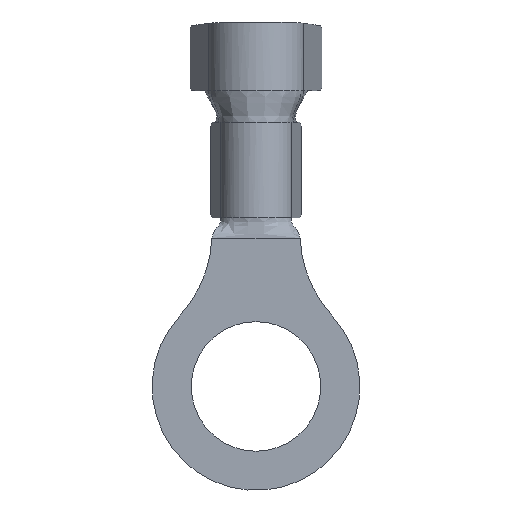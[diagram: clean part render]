
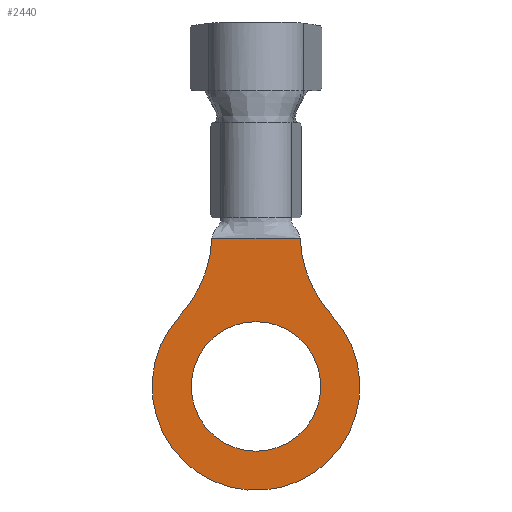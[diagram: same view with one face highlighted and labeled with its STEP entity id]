
A CAD part, front view. The second image highlights one B-rep face of the part: STEP entity #2440.
In plain terms, the highlighted planar face has unit normal (0, -1, 0).
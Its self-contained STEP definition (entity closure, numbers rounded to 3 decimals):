
#715=CARTESIAN_POINT('',(0.,-1.85,-12.1));
#716=DIRECTION('',(0.,-1.,0.));
#717=DIRECTION('',(0.,0.,-1.));
#718=AXIS2_PLACEMENT_3D('',#715,#716,#717);
#720=CARTESIAN_POINT('',(0.,-1.85,-12.1));
#721=DIRECTION('',(0.,-1.,0.));
#722=DIRECTION('',(0.,0.,1.));
#723=AXIS2_PLACEMENT_3D('',#720,#721,#722);
#725=CARTESIAN_POINT('',(6.8,-1.85,-5.829));
#726=DIRECTION('',(0.,-1.,0.));
#727=DIRECTION('',(-0.999,0.,-0.04));
#728=AXIS2_PLACEMENT_3D('',#725,#726,#727);
#730=CARTESIAN_POINT('',(0.,-1.85,-12.1));
#731=DIRECTION('',(0.,1.,0.));
#732=DIRECTION('',(0.735,0.,0.678));
#733=AXIS2_PLACEMENT_3D('',#730,#731,#732);
#735=CARTESIAN_POINT('',(-6.8,-1.85,-5.829));
#736=DIRECTION('',(0.,-1.,0.));
#737=DIRECTION('',(0.735,0.,-0.678));
#738=AXIS2_PLACEMENT_3D('',#735,#736,#737);
#740=DIRECTION('',(1.,0.,0.));
#741=VECTOR('',#740,3.608);
#742=CARTESIAN_POINT('',(-1.804,-1.85,-6.029));
#743=LINE('',#742,#741);
#868=CARTESIAN_POINT('',(0.,-1.85,-14.75));
#869=CARTESIAN_POINT('',(0.,-1.85,-9.45));
#870=VERTEX_POINT('',#868);
#871=VERTEX_POINT('',#869);
#872=CARTESIAN_POINT('',(3.124,-1.85,-9.219));
#873=CARTESIAN_POINT('',(-3.124,-1.85,-9.219));
#874=VERTEX_POINT('',#872);
#875=VERTEX_POINT('',#873);
#892=CARTESIAN_POINT('',(1.804,-1.85,-6.029));
#893=VERTEX_POINT('',#892);
#894=CARTESIAN_POINT('',(-1.804,-1.85,-6.029));
#895=VERTEX_POINT('',#894);
#2421=CARTESIAN_POINT('',(0.,-1.85,-12.1));
#2422=DIRECTION('',(0.,1.,0.));
#2423=DIRECTION('',(0.,0.,-1.));
#2424=AXIS2_PLACEMENT_3D('',#2421,#2422,#2423);
#2425=PLANE('',#2424);
#2426=ORIENTED_EDGE('',*,*,#2411,.T.);
#2428=ORIENTED_EDGE('',*,*,#2427,.T.);
#2430=ORIENTED_EDGE('',*,*,#2429,.T.);
#2431=ORIENTED_EDGE('',*,*,#2351,.T.);
#2432=EDGE_LOOP('',(#2426,#2428,#2430,#2431));
#2433=FACE_OUTER_BOUND('',#2432,.F.);
#2435=ORIENTED_EDGE('',*,*,#2434,.T.);
#2437=ORIENTED_EDGE('',*,*,#2436,.T.);
#2438=EDGE_LOOP('',(#2435,#2437));
#2439=FACE_BOUND('',#2438,.F.);
#2440=ADVANCED_FACE('',(#2433,#2439),#2425,.F.);
#719=CIRCLE('',#718,2.65);
#724=CIRCLE('',#723,2.65);
#729=CIRCLE('',#728,5.);
#734=CIRCLE('',#733,4.25);
#739=CIRCLE('',#738,5.);
#2351=EDGE_CURVE('',#895,#893,#743,.T.);
#2411=EDGE_CURVE('',#893,#874,#729,.T.);
#2427=EDGE_CURVE('',#874,#875,#734,.T.);
#2429=EDGE_CURVE('',#875,#895,#739,.T.);
#2434=EDGE_CURVE('',#870,#871,#719,.T.);
#2436=EDGE_CURVE('',#871,#870,#724,.T.);
